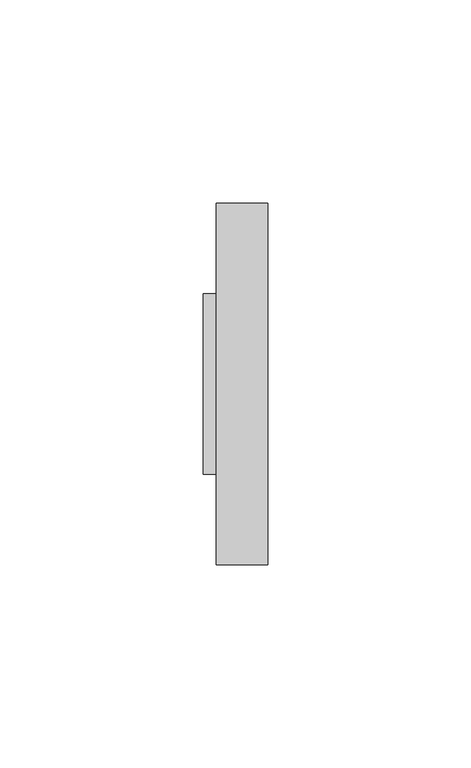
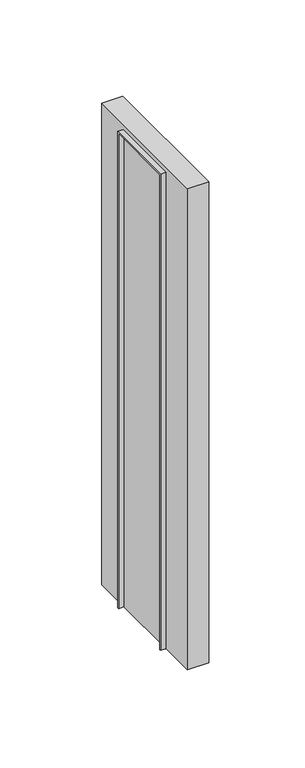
"""IFC4 building model written with IfcOpenShell, lengths in millimetres: furniture geometry."""

import ifcopenshell
import ifcopenshell.guid

model = None  # the IFC model being written
_history = None  # IfcOwnerHistory: only IFC2X3 demands one
_inside = {}  # id of a spatial element -> (the spatial element, [elements in it])
_under = {}  # id of a project, library or spatial element -> (it, [spatial elements below it])
_declared = {}  # id of a project -> (the project, [libraries it declares])
_typed = {}  # id of a type object -> (the type object, [elements of that type])
_made_of = {}  # id of a material, layer set ... -> (it, [elements and type objects made of it])


def new_model(schema):
    """Start an empty IFC model of exactly this schema.

    Asked for "IFC4X3", IfcOpenShell would pick the latest addendum, in which some entities
    have other attributes; the version numbers below select the first issue.
    IFC2X3 requires an IfcOwnerHistory on every rooted entity: one is made here for all.
    """
    global model, _history
    if schema == "IFC4X3":
        model = ifcopenshell.file(schema_version=(4, 3, 0, 0))
    else:
        model = ifcopenshell.file(schema=schema)
    _inside.clear()
    _under.clear()
    _declared.clear()
    _typed.clear()
    _made_of.clear()
    _history = None
    if model.schema == "IFC2X3":
        org = make("IfcOrganization", Name="unknown")
        user = make(
            "IfcPersonAndOrganization",
            ThePerson=make("IfcPerson", FamilyName="unknown"),
            TheOrganization=org,
        )
        app = make(
            "IfcApplication",
            ApplicationDeveloper=org,
            Version="unknown",
            ApplicationFullName="unknown",
            ApplicationIdentifier="unknown",
        )
        _history = make(
            "IfcOwnerHistory",
            OwningUser=user,
            OwningApplication=app,
            ChangeAction="ADDED",
            CreationDate=0,
        )
    return model


def make(cls, **values):
    """One entity of the class cls with the attributes given. An attribute that is None is left unset."""
    return model.create_entity(
        cls, **{name: value for name, value in values.items() if value is not None}
    )


def rooted(cls, **values):
    """An entity with a GlobalId (a new one), such as an element, a storey or a relation."""
    return make(cls, GlobalId=ifcopenshell.guid.new(), OwnerHistory=_history, **values)


def si_unit(unit_type, name, prefix=None):
    """IfcSIUnit, for example si_unit("LENGTHUNIT", "METRE", prefix="MILLI")."""
    return make("IfcSIUnit", UnitType=unit_type, Prefix=prefix, Name=name)


def assignment(units):
    """IfcUnitAssignment: the units of a project."""
    return None if units is None else make("IfcUnitAssignment", Units=units)


def point(xyz):
    """IfcCartesianPoint."""
    return None if xyz is None else make("IfcCartesianPoint", Coordinates=xyz)


def direction(xyz):
    """IfcDirection."""
    return None if xyz is None else make("IfcDirection", DirectionRatios=xyz)


def frame(location, z_axis=None, x_axis=None):
    """IfcAxis2Placement3D, a coordinate frame: its origin and axes. An axis left out is left unset."""
    return make(
        "IfcAxis2Placement3D",
        Location=point(location),
        Axis=direction(z_axis),
        RefDirection=direction(x_axis),
    )


def origin():
    """The frame at (0, 0, 0) with its axes left unset."""
    return frame((0.0, 0.0, 0.0))


def place(relative_to, where):
    """IfcLocalPlacement: puts the frame where relative to a parent placement (None: the world)."""
    return make(
        "IfcLocalPlacement", PlacementRelTo=relative_to, RelativePlacement=where
    )


def context(
    kind, dimensions, precision=None, world=None, true_north=None, identifier=None
):
    """IfcGeometricRepresentationContext, for example the 3D "Model" context."""
    return make(
        "IfcGeometricRepresentationContext",
        ContextIdentifier=identifier,
        ContextType=kind,
        CoordinateSpaceDimension=dimensions,
        Precision=precision,
        WorldCoordinateSystem=world,
        TrueNorth=true_north,
    )


def project(units=None, contexts=None):
    """IfcProject with its units and contexts."""
    return rooted(
        "IfcProject",
        Name="project",
        RepresentationContexts=contexts,
        UnitsInContext=assignment(units),
    )


def spatial(cls, under=None, at=None, **own):
    """A site, building, storey or space (cls), placed at a placement, below another one or the project."""
    s = rooted(cls, ObjectPlacement=at, **own)
    if under is not None:
        _under.setdefault(under.id(), (under, []))[1].append(s)
    return s


def polyline(points):
    """IfcPolyline through the points."""
    return make("IfcPolyline", Points=[point(p) for p in points])


def outline(outer, holes=None, kind="AREA"):
    """IfcArbitraryClosedProfileDef: a profile drawn as a closed curve; with holes, ...WithVoids."""
    if holes is None:
        return make("IfcArbitraryClosedProfileDef", ProfileType=kind, OuterCurve=outer)
    return make(
        "IfcArbitraryProfileDefWithVoids",
        ProfileType=kind,
        OuterCurve=outer,
        InnerCurves=holes,
    )


def extrude(swept, where, along, depth):
    """IfcExtrudedAreaSolid: the profile swept, set in the frame where, extruded along a direction by depth."""
    return make(
        "IfcExtrudedAreaSolid",
        SweptArea=swept,
        Position=where,
        ExtrudedDirection=direction(along),
        Depth=depth,
    )


def shape(context_of_items, identifier, shape_type, items):
    """IfcShapeRepresentation: the items that make up one representation, for example the "Body"."""
    return make(
        "IfcShapeRepresentation",
        ContextOfItems=context_of_items,
        RepresentationIdentifier=identifier,
        RepresentationType=shape_type,
        Items=items,
    )


def source(mapping_origin, context_of_items, identifier, shape_type, items):
    """IfcRepresentationMap: a shape defined once, which mapped items show again and again."""
    return make(
        "IfcRepresentationMap",
        MappingOrigin=mapping_origin,
        MappedRepresentation=shape(context_of_items, identifier, shape_type, items),
    )


def transform(
    local_origin,
    x_axis=None,
    y_axis=None,
    z_axis=None,
    scale=None,
    scale2=None,
    scale3=None,
    uniform=True,
):
    """IfcCartesianTransformationOperator3D, or its non-uniform kind. x_axis, y_axis, z_axis: its Axis1, 2, 3."""
    if uniform:
        return make(
            "IfcCartesianTransformationOperator3D",
            Axis1=direction(x_axis),
            Axis2=direction(y_axis),
            LocalOrigin=point(local_origin),
            Scale=scale,
            Axis3=direction(z_axis),
        )
    return make(
        "IfcCartesianTransformationOperator3DnonUniform",
        Axis1=direction(x_axis),
        Axis2=direction(y_axis),
        LocalOrigin=point(local_origin),
        Scale=scale,
        Axis3=direction(z_axis),
        Scale2=scale2,
        Scale3=scale3,
    )


def mapped(mapping_source, mapping_target):
    """IfcMappedItem: shows the shape of a source again, moved by a transform."""
    return make(
        "IfcMappedItem", MappingSource=mapping_source, MappingTarget=mapping_target
    )


def made_of(thing, what):
    """Note that an element or type object is made of a material, layer set ...; save() writes the relation."""
    if what is not None:
        _made_of.setdefault(what.id(), (what, []))[1].append(thing)
    return thing


def element(
    cls,
    number,
    at=None,
    inside=None,
    cuts=None,
    type_object=None,
    material=None,
    context=None,
    identifier="Body",
    shape_type=None,
    held_by="IfcProductDefinitionShape",
    body=None,
    shapes=None,
    **own,
):
    """One element of the class cls, such as IfcWall. Its Tag is "e" and its number.

    at: its placement. inside: the storey or other place that contains it. cuts: it is an
    opening in that element (IfcRelVoidsElement). A single representation is given by context,
    identifier, shape_type and body (its items); several are given by shapes. held_by: the class
    of the entity that holds the representations. save() writes the other relations.
    """
    e = rooted(cls, Tag="e%d" % number, ObjectPlacement=at, **own)
    if body is not None:
        shapes = [shape(context, identifier, shape_type, body)]
    if shapes is not None:
        e.Representation = make(held_by, Representations=shapes)
    if inside is not None:
        _inside.setdefault(inside.id(), (inside, []))[1].append(e)
    if cuts is not None:
        rooted(
            "IfcRelVoidsElement", RelatingBuildingElement=cuts, RelatedOpeningElement=e
        )
    if type_object is not None:
        _typed.setdefault(type_object.id(), (type_object, []))[1].append(e)
    return made_of(e, material)


def aggregate(whole, parts):
    """IfcRelAggregates: a whole, such as a stair, and the parts it consists of."""
    return rooted("IfcRelAggregates", RelatingObject=whole, RelatedObjects=parts)


def save(model, path):
    """Write the relations noted so far, then the file.

    IfcRelAggregates (storeys below a building ...), IfcRelContainedInSpatialStructure (elements
    in a storey), IfcRelDefinesByType, IfcRelAssociatesMaterial and IfcRelDeclares: one each for
    every whole, place, type object, material and project.
    """
    for whole, parts in _under.values():
        aggregate(whole, parts)
    for where, things in _inside.values():
        rooted(
            "IfcRelContainedInSpatialStructure",
            RelatedElements=things,
            RelatingStructure=where,
        )
    for kind, things in _typed.values():
        rooted("IfcRelDefinesByType", RelatedObjects=things, RelatingType=kind)
    for what, things in _made_of.values():
        rooted("IfcRelAssociatesMaterial", RelatedObjects=things, RelatingMaterial=what)
    for by, libraries in _declared.values():
        rooted("IfcRelDeclares", RelatingContext=by, RelatedDefinitions=libraries)
    model.write(path)


def furniture_9d682085(model_context):
    return source(origin(), model_context, "Body", "SweptSolid", [
        extrude(outline(polyline([(-28.0212056, 1368.425), (16.4287944, 1368.425), (16.4287944, 1066.8), (15.6350444, 1066.8), (15.6350444, 1367.63125), (-27.2274556, 1367.63125), (-27.2274556, 1066.8), (-28.0212056, 1066.8), (-28.0212056, 1368.425)])), frame((-8.5456018, 0.0, 0.0), z_axis=(1.0, 0.0, 0.0), x_axis=(0.0, 1.0, 0.0)), (0.0, 0.0, 1.0), 3.175),
        extrude(outline(polyline([(7.3293982, 38.6537944), (7.3293982, -50.2462056), (-5.3706018, -50.2462056), (-5.3706018, 38.6537944), (7.3293982, 38.6537944)])), frame((0.0, 0.0, 1066.8), z_axis=(0.0, 0.0, 1.0), x_axis=(1.0, 0.0, 0.0)), (0.0, 0.0, 1.0), 304.8),
    ])


if __name__ == "__main__":
    model = new_model("IFC4")
    model_context = context("Model", 3, world=origin())
    ifc_project = project(units=[si_unit("LENGTHUNIT", "METRE", prefix="MILLI")], contexts=[model_context])
    site = spatial("IfcSite", under=ifc_project)
    building = spatial("IfcBuilding", under=site)
    placement = place(None, origin())
    furniture_shape = furniture_9d682085(model_context)
    element("IfcFurniture", 1, ObjectType="HermanMiller_Ethospace_E1251_FinishedEndChangeOfHeight : Std Ptd 12\"H", at=placement, inside=building, context=model_context, shape_type="MappedRepresentation", body=[
        mapped(furniture_shape, transform((0.0, 0.0, 0.0), x_axis=(1.0, 0.0, 0.0), y_axis=(0.0, 1.0, 0.0), z_axis=(0.0, 0.0, 1.0))),
    ])
    save(model, "model.ifc")
